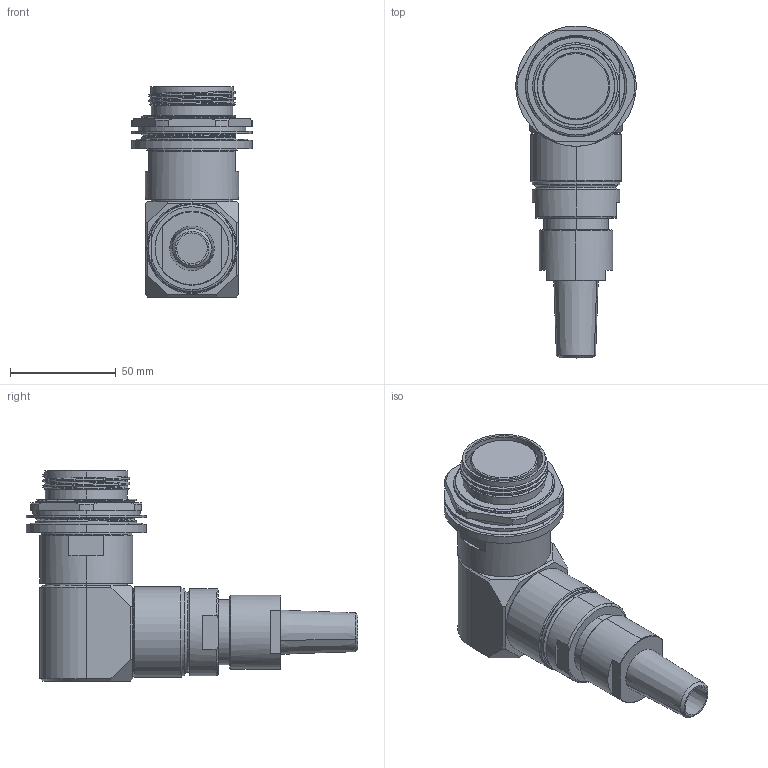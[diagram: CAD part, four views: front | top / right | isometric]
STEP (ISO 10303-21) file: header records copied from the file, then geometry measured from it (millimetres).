
FILE_DESCRIPTION (( 'STEP AP214' ), '1' );
FILE_NAME ('QLINK90-RJTX-25XX-SXXX.STEP', '2025-10-23T14:17:15', ( '' ), ( '' ), 'SwSTEP 2.0', 'SolidWorks 2024', '' );
FILE_SCHEMA (( 'AUTOMOTIVE_DESIGN' ));
Length unit declared in the file: millimetre
Products named in the file (1): QLINK90-RJTX-25XX-SXXX
Bounding box: 56.9 x 156.86 x 99.31 mm (x, y, z)
Volume: 244420.6 mm3; surface area: 47378.2 mm2
Topology: 2 solids, 4 shells, 281 faces, 703 edges, 454 vertices
Faces by surface type: cylinder 87, plane 73, cone 59, bspline 39, torus 23
Entity records: 19695 total; most frequent: CARTESIAN_POINT 13399, ORIENTED_EDGE 1406, DIRECTION 1214, EDGE_CURVE 703, AXIS2_PLACEMENT_3D 491, VERTEX_POINT 454, EDGE_LOOP 313, ADVANCED_FACE 281
